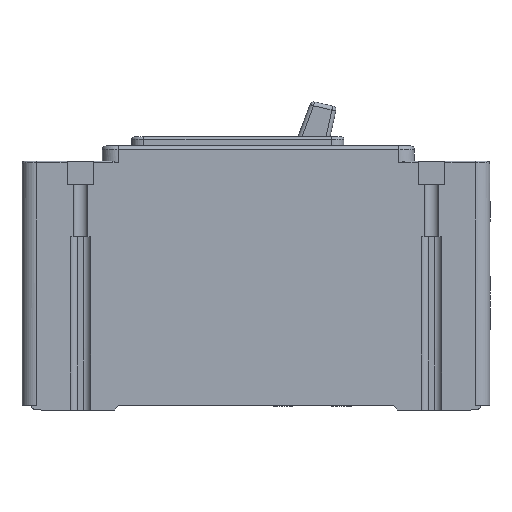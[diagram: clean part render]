
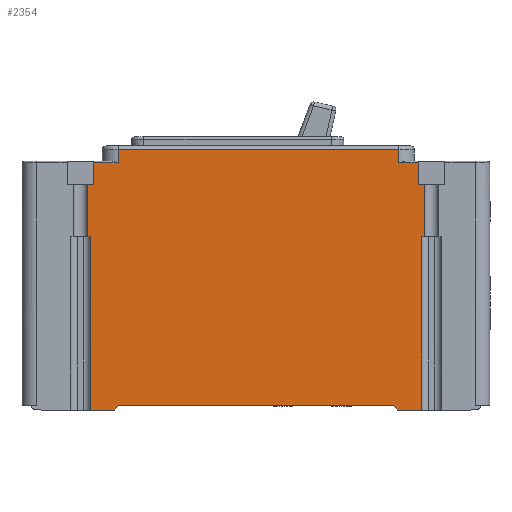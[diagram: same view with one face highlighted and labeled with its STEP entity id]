
A CAD part, left-side view. The second image highlights one B-rep face of the part: STEP entity #2354.
In plain terms, the highlighted planar face has unit normal (-1, 0, 0).
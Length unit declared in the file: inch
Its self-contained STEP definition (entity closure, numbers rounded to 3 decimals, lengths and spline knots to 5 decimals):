
#1966=CARTESIAN_POINT('',(0.,5.078,3.076));
#1967=VERTEX_POINT('',#1966);
#1975=CARTESIAN_POINT('',(0.,4.769,3.076));
#1976=VERTEX_POINT('',#1975);
#1977=CARTESIAN_POINT('',(0.,5.078,3.076));
#1978=DIRECTION('',(0.,-1.0,0.));
#1979=VECTOR('',#1978,0.309);
#1980=LINE('',#1977,#1979);
#1981=EDGE_CURVE('',#1967,#1976,#1980,.T.);
#2166=CARTESIAN_POINT('',(0.,0.922,3.076));
#2167=VERTEX_POINT('',#2166);
#2185=CARTESIAN_POINT('',(0.,1.169,3.076));
#2186=VERTEX_POINT('',#2185);
#2196=CARTESIAN_POINT('',(0.,1.169,3.076));
#2197=DIRECTION('',(0.,-1.,0.));
#2198=VECTOR('',#2197,0.247);
#2199=LINE('',#2196,#2198);
#2200=EDGE_CURVE('',#2186,#2167,#2199,.T.);
#2205=CARTESIAN_POINT('',(0.,2.99934,1.60674));
#2206=DIRECTION('',(-1.0,0.0,0.0));
#2207=DIRECTION('',(0.0,0.0,1.0));
#2208=AXIS2_PLACEMENT_3D('',#2205,#2206,#2207);
#2209=PLANE('',#2208);
#2210=ORIENTED_EDGE('',*,*,#1981,.F.);
#2211=CARTESIAN_POINT('',(0.,5.078,2.799));
#2212=VERTEX_POINT('',#2211);
#2213=CARTESIAN_POINT('',(0.,5.078,3.076));
#2214=DIRECTION('',(0.0,0.0,-1.0));
#2215=VECTOR('',#2214,0.277);
#2216=LINE('',#2213,#2215);
#2217=EDGE_CURVE('',#1967,#2212,#2216,.T.);
#2218=ORIENTED_EDGE('',*,*,#2217,.T.);
#2219=CARTESIAN_POINT('',(0.,5.156,2.799));
#2220=VERTEX_POINT('',#2219);
#2221=CARTESIAN_POINT('',(0.,5.078,2.799));
#2222=DIRECTION('',(0.0,1.0,0.0));
#2223=VECTOR('',#2222,0.078);
#2224=LINE('',#2221,#2223);
#2225=EDGE_CURVE('',#2212,#2220,#2224,.T.);
#2226=ORIENTED_EDGE('',*,*,#2225,.T.);
#2227=CARTESIAN_POINT('',(0.0,5.156,2.127));
#2228=VERTEX_POINT('',#2227);
#2229=CARTESIAN_POINT('',(0.,5.156,2.799));
#2230=DIRECTION('',(0.0,0.0,-1.0));
#2231=VECTOR('',#2230,0.672);
#2232=LINE('',#2229,#2231);
#2233=EDGE_CURVE('',#2220,#2228,#2232,.T.);
#2234=ORIENTED_EDGE('',*,*,#2233,.T.);
#2235=CARTESIAN_POINT('',(0.0,5.12,2.127));
#2236=VERTEX_POINT('',#2235);
#2237=CARTESIAN_POINT('',(0.,5.156,2.127));
#2238=DIRECTION('',(0.0,-1.0,0.0));
#2239=VECTOR('',#2238,0.036);
#2240=LINE('',#2237,#2239);
#2241=EDGE_CURVE('',#2228,#2236,#2240,.T.);
#2242=ORIENTED_EDGE('',*,*,#2241,.T.);
#2243=CARTESIAN_POINT('',(0.,5.12,-0.09273));
#2244=VERTEX_POINT('',#2243);
#2245=CARTESIAN_POINT('',(0.,5.12,2.127));
#2246=DIRECTION('',(0.0,0.0,-1.0));
#2247=VECTOR('',#2246,2.21973);
#2248=LINE('',#2245,#2247);
#2249=EDGE_CURVE('',#2236,#2244,#2248,.T.);
#2250=ORIENTED_EDGE('',*,*,#2249,.T.);
#2251=CARTESIAN_POINT('',(0.,4.82,-0.093));
#2252=VERTEX_POINT('',#2251);
#2253=CARTESIAN_POINT('',(0.,4.82,-0.093));
#2254=DIRECTION('',(0.,1.,0.001));
#2255=VECTOR('',#2254,0.3);
#2256=LINE('',#2253,#2255);
#2257=EDGE_CURVE('',#2252,#2244,#2256,.T.);
#2258=ORIENTED_EDGE('',*,*,#2257,.F.);
#2259=CARTESIAN_POINT('',(0.,4.76,-0.033));
#2260=VERTEX_POINT('',#2259);
#2261=CARTESIAN_POINT('',(0.,4.76,-0.033));
#2262=DIRECTION('',(0.,0.707,-0.707));
#2263=VECTOR('',#2262,0.08485);
#2264=LINE('',#2261,#2263);
#2265=EDGE_CURVE('',#2260,#2252,#2264,.T.);
#2266=ORIENTED_EDGE('',*,*,#2265,.F.);
#2267=CARTESIAN_POINT('',(0.,1.24,-0.033));
#2268=VERTEX_POINT('',#2267);
#2269=CARTESIAN_POINT('',(0.,1.24,-0.033));
#2270=DIRECTION('',(0.0,1.0,0.0));
#2271=VECTOR('',#2270,3.52);
#2272=LINE('',#2269,#2271);
#2273=EDGE_CURVE('',#2268,#2260,#2272,.T.);
#2274=ORIENTED_EDGE('',*,*,#2273,.F.);
#2275=CARTESIAN_POINT('',(0.,1.18,-0.093));
#2276=VERTEX_POINT('',#2275);
#2277=CARTESIAN_POINT('',(0.,1.24,-0.033));
#2278=DIRECTION('',(0.,-0.707,-0.707));
#2279=VECTOR('',#2278,0.08485);
#2280=LINE('',#2277,#2279);
#2281=EDGE_CURVE('',#2268,#2276,#2280,.T.);
#2282=ORIENTED_EDGE('',*,*,#2281,.T.);
#2283=CARTESIAN_POINT('',(0.,0.88,-0.09273));
#2284=VERTEX_POINT('',#2283);
#2285=CARTESIAN_POINT('',(0.,1.18,-0.093));
#2286=DIRECTION('',(0.,-1.,0.001));
#2287=VECTOR('',#2286,0.3);
#2288=LINE('',#2285,#2287);
#2289=EDGE_CURVE('',#2276,#2284,#2288,.T.);
#2290=ORIENTED_EDGE('',*,*,#2289,.T.);
#2291=CARTESIAN_POINT('',(0.0,0.88,2.127));
#2292=VERTEX_POINT('',#2291);
#2293=CARTESIAN_POINT('',(0.,0.88,-0.09273));
#2294=DIRECTION('',(0.0,0.0,1.0));
#2295=VECTOR('',#2294,2.21973);
#2296=LINE('',#2293,#2295);
#2297=EDGE_CURVE('',#2284,#2292,#2296,.T.);
#2298=ORIENTED_EDGE('',*,*,#2297,.T.);
#2299=CARTESIAN_POINT('',(0.0,0.844,2.127));
#2300=VERTEX_POINT('',#2299);
#2301=CARTESIAN_POINT('',(0.,0.88,2.127));
#2302=DIRECTION('',(0.0,-1.0,0.0));
#2303=VECTOR('',#2302,0.036);
#2304=LINE('',#2301,#2303);
#2305=EDGE_CURVE('',#2292,#2300,#2304,.T.);
#2306=ORIENTED_EDGE('',*,*,#2305,.T.);
#2307=CARTESIAN_POINT('',(0.,0.844,2.799));
#2308=VERTEX_POINT('',#2307);
#2309=CARTESIAN_POINT('',(0.,0.844,2.127));
#2310=DIRECTION('',(0.0,0.0,1.0));
#2311=VECTOR('',#2310,0.672);
#2312=LINE('',#2309,#2311);
#2313=EDGE_CURVE('',#2300,#2308,#2312,.T.);
#2314=ORIENTED_EDGE('',*,*,#2313,.T.);
#2315=CARTESIAN_POINT('',(0.,0.922,2.799));
#2316=VERTEX_POINT('',#2315);
#2317=CARTESIAN_POINT('',(0.,0.844,2.799));
#2318=DIRECTION('',(0.0,1.0,0.0));
#2319=VECTOR('',#2318,0.078);
#2320=LINE('',#2317,#2319);
#2321=EDGE_CURVE('',#2308,#2316,#2320,.T.);
#2322=ORIENTED_EDGE('',*,*,#2321,.T.);
#2323=CARTESIAN_POINT('',(0.,0.922,2.799));
#2324=DIRECTION('',(0.0,0.0,1.0));
#2325=VECTOR('',#2324,0.277);
#2326=LINE('',#2323,#2325);
#2327=EDGE_CURVE('',#2316,#2167,#2326,.T.);
#2328=ORIENTED_EDGE('',*,*,#2327,.T.);
#2329=ORIENTED_EDGE('',*,*,#2200,.F.);
#2330=CARTESIAN_POINT('',(0.,1.169,3.243));
#2331=VERTEX_POINT('',#2330);
#2332=CARTESIAN_POINT('',(0.,1.169,3.243));
#2333=DIRECTION('',(0.,0.,-1.));
#2334=VECTOR('',#2333,0.167);
#2335=LINE('',#2332,#2334);
#2336=EDGE_CURVE('',#2331,#2186,#2335,.T.);
#2337=ORIENTED_EDGE('',*,*,#2336,.F.);
#2338=CARTESIAN_POINT('',(0.,4.769,3.243));
#2339=VERTEX_POINT('',#2338);
#2340=CARTESIAN_POINT('',(0.,4.769,3.243));
#2341=DIRECTION('',(0.0,-1.0,0.0));
#2342=VECTOR('',#2341,3.6);
#2343=LINE('',#2340,#2342);
#2344=EDGE_CURVE('',#2339,#2331,#2343,.T.);
#2345=ORIENTED_EDGE('',*,*,#2344,.F.);
#2346=CARTESIAN_POINT('',(0.,4.769,3.076));
#2347=DIRECTION('',(0.0,0.0,1.0));
#2348=VECTOR('',#2347,0.167);
#2349=LINE('',#2346,#2348);
#2350=EDGE_CURVE('',#1976,#2339,#2349,.T.);
#2351=ORIENTED_EDGE('',*,*,#2350,.F.);
#2352=EDGE_LOOP('',(#2210,#2218,#2226,#2234,#2242,#2250,#2258,#2266,#2274,#2282,#2290,#2298,#2306,#2314,#2322,#2328,#2329,#2337,#2345,#2351));
#2353=FACE_OUTER_BOUND('',#2352,.T.);
#2354=ADVANCED_FACE('',(#2353),#2209,.T.);
